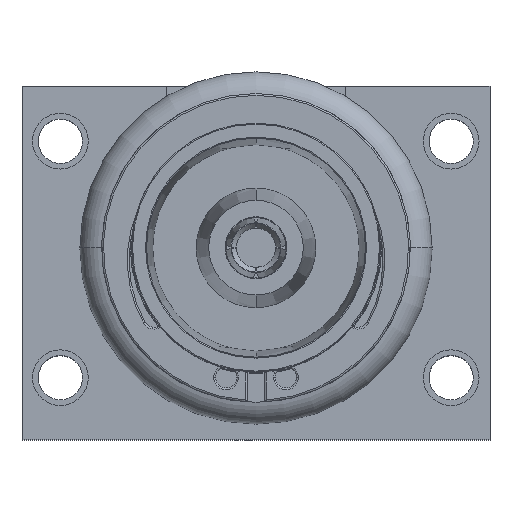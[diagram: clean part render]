
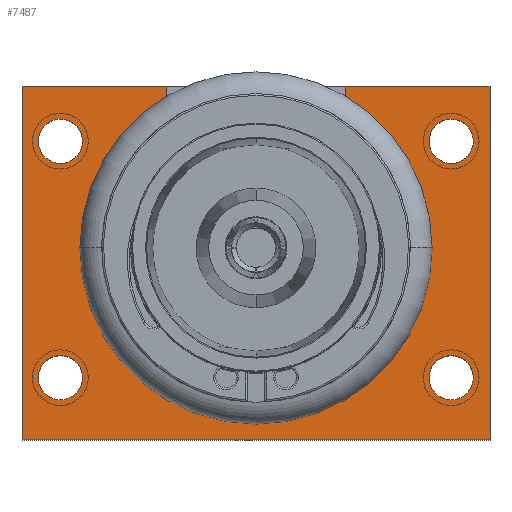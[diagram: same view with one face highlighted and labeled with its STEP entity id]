
A CAD part, top view. The second image highlights one B-rep face of the part: STEP entity #7487.
In plain terms, the highlighted planar face has unit normal (0, 0, 1).
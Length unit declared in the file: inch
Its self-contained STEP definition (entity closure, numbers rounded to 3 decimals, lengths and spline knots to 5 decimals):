
#628=DIRECTION('',(0.,1.,0.));
#629=VECTOR('',#628,0.0544);
#630=CARTESIAN_POINT('',(0.18,0.2706,0.182));
#631=LINE('',#630,#629);
#632=DIRECTION('',(1.,0.,0.));
#633=VECTOR('',#632,0.29);
#634=CARTESIAN_POINT('',(0.18,0.325,0.182));
#635=LINE('',#634,#633);
#636=DIRECTION('',(1.,0.,0.));
#637=VECTOR('',#636,0.29);
#638=CARTESIAN_POINT('',(-0.47,0.325,0.182));
#639=LINE('',#638,#637);
#640=CARTESIAN_POINT('',(0.,0.,0.182));
#641=DIRECTION('',(0.,0.,-1.));
#642=DIRECTION('',(0.554,0.833,0.));
#643=AXIS2_PLACEMENT_3D('',#640,#641,#642);
#645=CARTESIAN_POINT('',(-0.393,0.215,0.182));
#646=DIRECTION('',(0.,0.,-1.));
#647=DIRECTION('',(1.,0.,0.));
#648=AXIS2_PLACEMENT_3D('',#645,#646,#647);
#650=CARTESIAN_POINT('',(-0.393,0.215,0.182));
#651=DIRECTION('',(0.,0.,-1.));
#652=DIRECTION('',(-1.,0.,0.));
#653=AXIS2_PLACEMENT_3D('',#650,#651,#652);
#655=CARTESIAN_POINT('',(-0.393,-0.26,0.182));
#656=DIRECTION('',(0.,0.,-1.));
#657=DIRECTION('',(1.,0.,0.));
#658=AXIS2_PLACEMENT_3D('',#655,#656,#657);
#660=CARTESIAN_POINT('',(-0.393,-0.26,0.182));
#661=DIRECTION('',(0.,0.,-1.));
#662=DIRECTION('',(-1.,0.,0.));
#663=AXIS2_PLACEMENT_3D('',#660,#661,#662);
#665=CARTESIAN_POINT('',(0.392,0.215,0.182));
#666=DIRECTION('',(0.,0.,-1.));
#667=DIRECTION('',(1.,0.,0.));
#668=AXIS2_PLACEMENT_3D('',#665,#666,#667);
#670=CARTESIAN_POINT('',(0.392,0.215,0.182));
#671=DIRECTION('',(0.,0.,-1.));
#672=DIRECTION('',(-1.,0.,0.));
#673=AXIS2_PLACEMENT_3D('',#670,#671,#672);
#675=CARTESIAN_POINT('',(0.392,-0.26,0.182));
#676=DIRECTION('',(0.,0.,-1.));
#677=DIRECTION('',(1.,0.,0.));
#678=AXIS2_PLACEMENT_3D('',#675,#676,#677);
#680=CARTESIAN_POINT('',(0.392,-0.26,0.182));
#681=DIRECTION('',(0.,0.,-1.));
#682=DIRECTION('',(-1.,0.,0.));
#683=AXIS2_PLACEMENT_3D('',#680,#681,#682);
#689=DIRECTION('',(0.,1.,0.));
#690=VECTOR('',#689,0.71);
#691=CARTESIAN_POINT('',(0.47,-0.385,0.182));
#692=LINE('',#691,#690);
#701=DIRECTION('',(1.,0.,0.));
#702=VECTOR('',#701,0.94);
#703=CARTESIAN_POINT('',(-0.47,-0.385,0.182));
#704=LINE('',#703,#702);
#717=DIRECTION('',(0.,-1.,0.));
#718=VECTOR('',#717,0.71);
#719=CARTESIAN_POINT('',(-0.47,0.325,0.182));
#720=LINE('',#719,#718);
#725=DIRECTION('',(0.,1.,0.));
#726=VECTOR('',#725,0.0544);
#727=CARTESIAN_POINT('',(-0.18,0.2706,0.182));
#728=LINE('',#727,#726);
#5792=CARTESIAN_POINT('',(0.18,0.325,0.182));
#5794=VERTEX_POINT('',#5792);
#5797=CARTESIAN_POINT('',(-0.18,0.325,0.182));
#5798=VERTEX_POINT('',#5797);
#5799=CARTESIAN_POINT('',(-0.47,0.325,0.182));
#5800=VERTEX_POINT('',#5799);
#5801=CARTESIAN_POINT('',(0.47,0.325,0.182));
#5802=VERTEX_POINT('',#5801);
#5803=CARTESIAN_POINT('',(0.18,0.2706,0.182));
#5804=VERTEX_POINT('',#5803);
#5807=CARTESIAN_POINT('',(0.47,-0.385,0.182));
#5808=VERTEX_POINT('',#5807);
#5809=CARTESIAN_POINT('',(-0.47,-0.385,0.182));
#5810=VERTEX_POINT('',#5809);
#5811=CARTESIAN_POINT('',(-0.18,0.2706,0.182));
#5812=VERTEX_POINT('',#5811);
#5813=CARTESIAN_POINT('',(-0.3485,0.215,0.182));
#5814=CARTESIAN_POINT('',(-0.4375,0.215,0.182));
#5815=VERTEX_POINT('',#5813);
#5816=VERTEX_POINT('',#5814);
#5817=CARTESIAN_POINT('',(-0.3485,-0.26,0.182));
#5818=CARTESIAN_POINT('',(-0.4375,-0.26,0.182));
#5819=VERTEX_POINT('',#5817);
#5820=VERTEX_POINT('',#5818);
#5821=CARTESIAN_POINT('',(0.4365,0.215,0.182));
#5822=CARTESIAN_POINT('',(0.3475,0.215,0.182));
#5823=VERTEX_POINT('',#5821);
#5824=VERTEX_POINT('',#5822);
#5825=CARTESIAN_POINT('',(0.4365,-0.26,0.182));
#5826=CARTESIAN_POINT('',(0.3475,-0.26,0.182));
#5827=VERTEX_POINT('',#5825);
#5828=VERTEX_POINT('',#5826);
#7443=CARTESIAN_POINT('',(0.,-0.03,0.182));
#7444=DIRECTION('',(0.,0.,1.));
#7445=DIRECTION('',(-1.,0.,0.));
#7446=AXIS2_PLACEMENT_3D('',#7443,#7444,#7445);
#7447=PLANE('',#7446);
#7448=ORIENTED_EDGE('',*,*,#7433,.T.);
#7449=ORIENTED_EDGE('',*,*,#7423,.T.);
#7451=ORIENTED_EDGE('',*,*,#7450,.F.);
#7453=ORIENTED_EDGE('',*,*,#7452,.F.);
#7455=ORIENTED_EDGE('',*,*,#7454,.F.);
#7456=ORIENTED_EDGE('',*,*,#7411,.T.);
#7458=ORIENTED_EDGE('',*,*,#7457,.F.);
#7460=ORIENTED_EDGE('',*,*,#7459,.F.);
#7461=EDGE_LOOP('',(#7448,#7449,#7451,#7453,#7455,#7456,#7458,#7460));
#7462=FACE_OUTER_BOUND('',#7461,.F.);
#7464=ORIENTED_EDGE('',*,*,#7463,.F.);
#7466=ORIENTED_EDGE('',*,*,#7465,.F.);
#7467=EDGE_LOOP('',(#7464,#7466));
#7468=FACE_BOUND('',#7467,.F.);
#7470=ORIENTED_EDGE('',*,*,#7469,.F.);
#7472=ORIENTED_EDGE('',*,*,#7471,.F.);
#7473=EDGE_LOOP('',(#7470,#7472));
#7474=FACE_BOUND('',#7473,.F.);
#7476=ORIENTED_EDGE('',*,*,#7475,.F.);
#7478=ORIENTED_EDGE('',*,*,#7477,.F.);
#7479=EDGE_LOOP('',(#7476,#7478));
#7480=FACE_BOUND('',#7479,.F.);
#7482=ORIENTED_EDGE('',*,*,#7481,.F.);
#7484=ORIENTED_EDGE('',*,*,#7483,.F.);
#7485=EDGE_LOOP('',(#7482,#7484));
#7486=FACE_BOUND('',#7485,.F.);
#644=CIRCLE('',#643,0.325);
#649=CIRCLE('',#648,0.0445);
#654=CIRCLE('',#653,0.0445);
#659=CIRCLE('',#658,0.0445);
#664=CIRCLE('',#663,0.0445);
#669=CIRCLE('',#668,0.0445);
#674=CIRCLE('',#673,0.0445);
#679=CIRCLE('',#678,0.0445);
#684=CIRCLE('',#683,0.0445);
#7411=EDGE_CURVE('',#5800,#5798,#639,.T.);
#7423=EDGE_CURVE('',#5794,#5802,#635,.T.);
#7433=EDGE_CURVE('',#5804,#5794,#631,.T.);
#7450=EDGE_CURVE('',#5808,#5802,#692,.T.);
#7452=EDGE_CURVE('',#5810,#5808,#704,.T.);
#7454=EDGE_CURVE('',#5800,#5810,#720,.T.);
#7457=EDGE_CURVE('',#5812,#5798,#728,.T.);
#7459=EDGE_CURVE('',#5804,#5812,#644,.T.);
#7463=EDGE_CURVE('',#5815,#5816,#649,.T.);
#7465=EDGE_CURVE('',#5816,#5815,#654,.T.);
#7469=EDGE_CURVE('',#5819,#5820,#659,.T.);
#7471=EDGE_CURVE('',#5820,#5819,#664,.T.);
#7475=EDGE_CURVE('',#5823,#5824,#669,.T.);
#7477=EDGE_CURVE('',#5824,#5823,#674,.T.);
#7481=EDGE_CURVE('',#5827,#5828,#679,.T.);
#7483=EDGE_CURVE('',#5828,#5827,#684,.T.);
#7487=ADVANCED_FACE('',(#7462,#7468,#7474,#7480,#7486),#7447,.T.);
